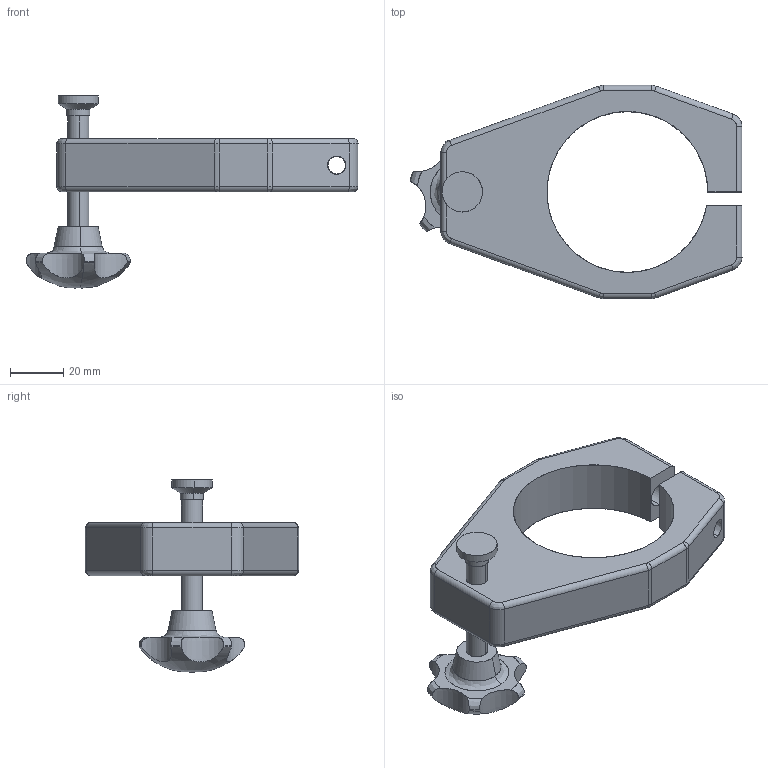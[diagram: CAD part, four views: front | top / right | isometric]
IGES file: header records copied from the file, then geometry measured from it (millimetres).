
Start section: SolidWorks IGES file using analytic representation for surfaces
Global section: file name: R:\Inventor\Kundmodeller Solidworks\Fästen\Height adjustment bracket 041J004339.IGS; native system: SolidWorks 2008; preprocessor: SolidWorks 2008; author: Johan; date: 091015.081617; units: millimetre
Bounding box: 124.57 x 80 x 72.06 mm (x, y, z)
Surface area: 25149.6 mm2 (no closed solid volume)
Topology: 0 solids, 0 shells, 112 faces, 1555 edges, 1553 vertices
Faces by surface type: revolution 65, bspline 47
